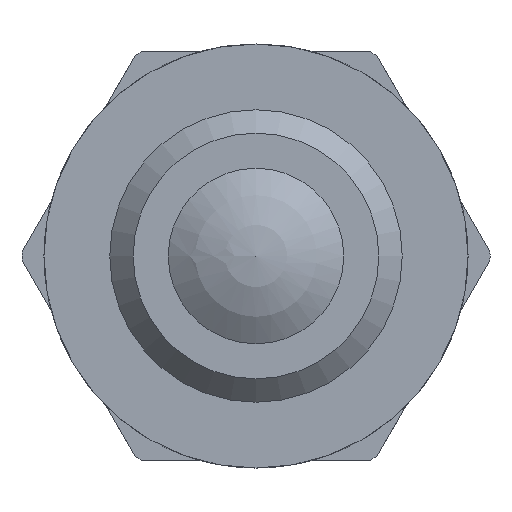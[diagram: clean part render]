
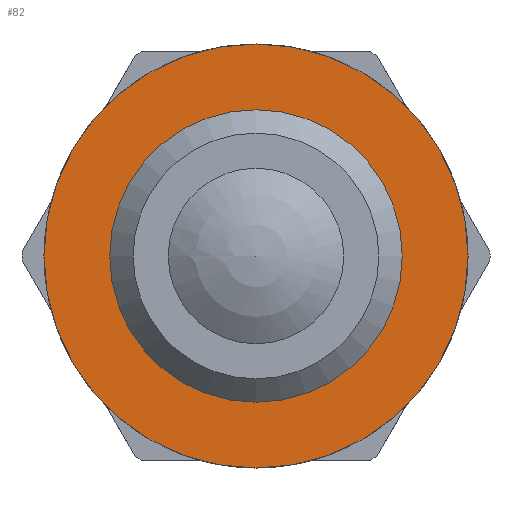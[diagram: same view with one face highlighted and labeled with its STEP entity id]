
A CAD part, front view. The second image highlights one B-rep face of the part: STEP entity #82.
In plain terms, the highlighted planar face has unit normal (0, -1, 0).
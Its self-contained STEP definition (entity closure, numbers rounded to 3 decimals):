
#82 = ADVANCED_FACE( '', ( #137, #138 ), #139, .F. );
#137 = FACE_BOUND( '', #232, .T. );
#138 = FACE_OUTER_BOUND( '', #233, .T. );
#139 = PLANE( '', #234 );
#232 = EDGE_LOOP( '', ( #350 ) );
#233 = EDGE_LOOP( '', ( #351 ) );
#234 = AXIS2_PLACEMENT_3D( '', #352, #353, #354 );
#350 = ORIENTED_EDGE( '', *, *, #614, .F. );
#351 = ORIENTED_EDGE( '', *, *, #615, .T. );
#352 = CARTESIAN_POINT( '', ( 7.25, 0., 0. ) );
#353 = DIRECTION( '', ( 0., 1., 0. ) );
#354 = DIRECTION( '', ( 0., 0., 1. ) );
#614 = EDGE_CURVE( '', #709, #709, #710, .T. );
#615 = EDGE_CURVE( '', #711, #711, #712, .T. );
#709 = VERTEX_POINT( '', #855 );
#710 = CIRCLE( '', #856, 5. );
#711 = VERTEX_POINT( '', #857 );
#712 = CIRCLE( '', #858, 7.25 );
#855 = CARTESIAN_POINT( '', ( 0., 0., -5. ) );
#856 = AXIS2_PLACEMENT_3D( '', #1044, #1045, #1046 );
#857 = CARTESIAN_POINT( '', ( 0., 0., -7.25 ) );
#858 = AXIS2_PLACEMENT_3D( '', #1047, #1048, #1049 );
#1044 = CARTESIAN_POINT( '', ( 0., 0., 0. ) );
#1045 = DIRECTION( '', ( 0., -1., 0. ) );
#1046 = DIRECTION( '', ( 0., 0., -1. ) );
#1047 = CARTESIAN_POINT( '', ( 0., 0., 0. ) );
#1048 = DIRECTION( '', ( 0., -1., 0. ) );
#1049 = DIRECTION( '', ( 0., 0., -1. ) );
